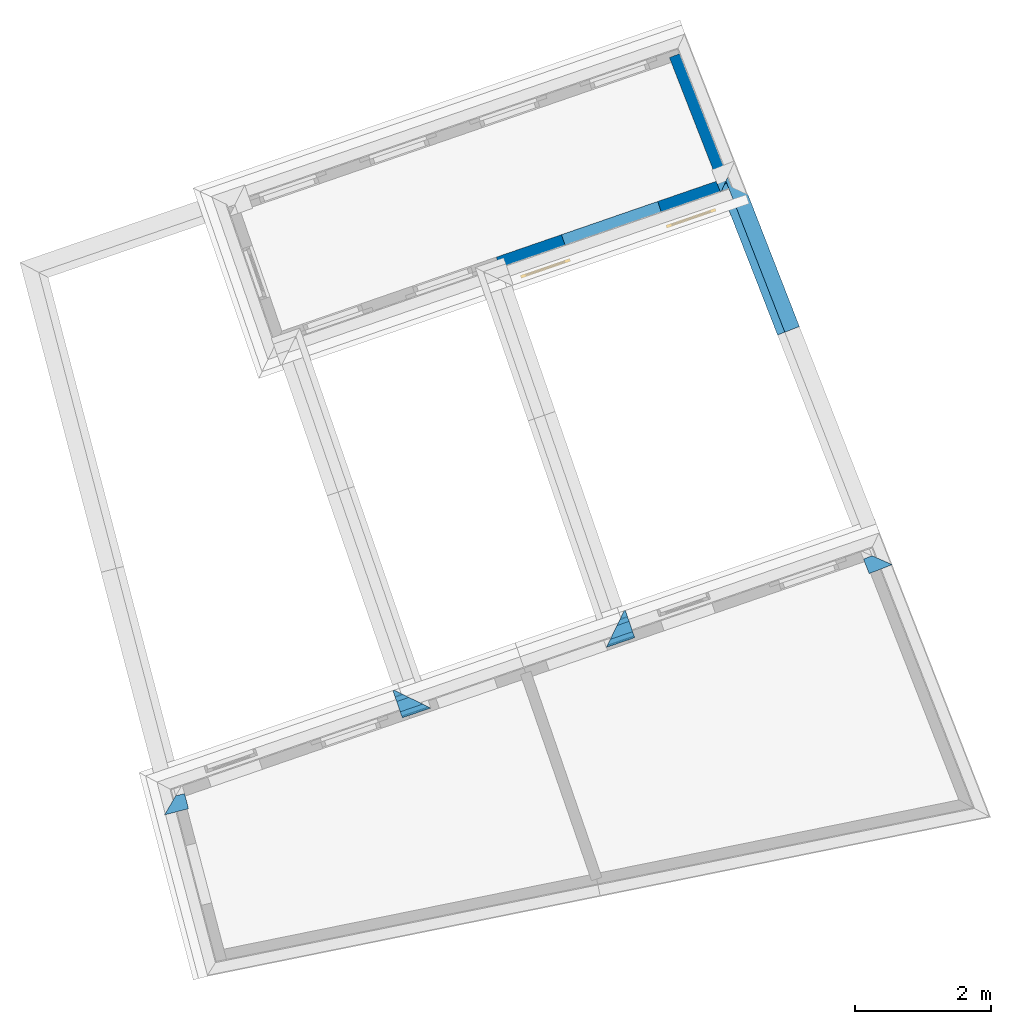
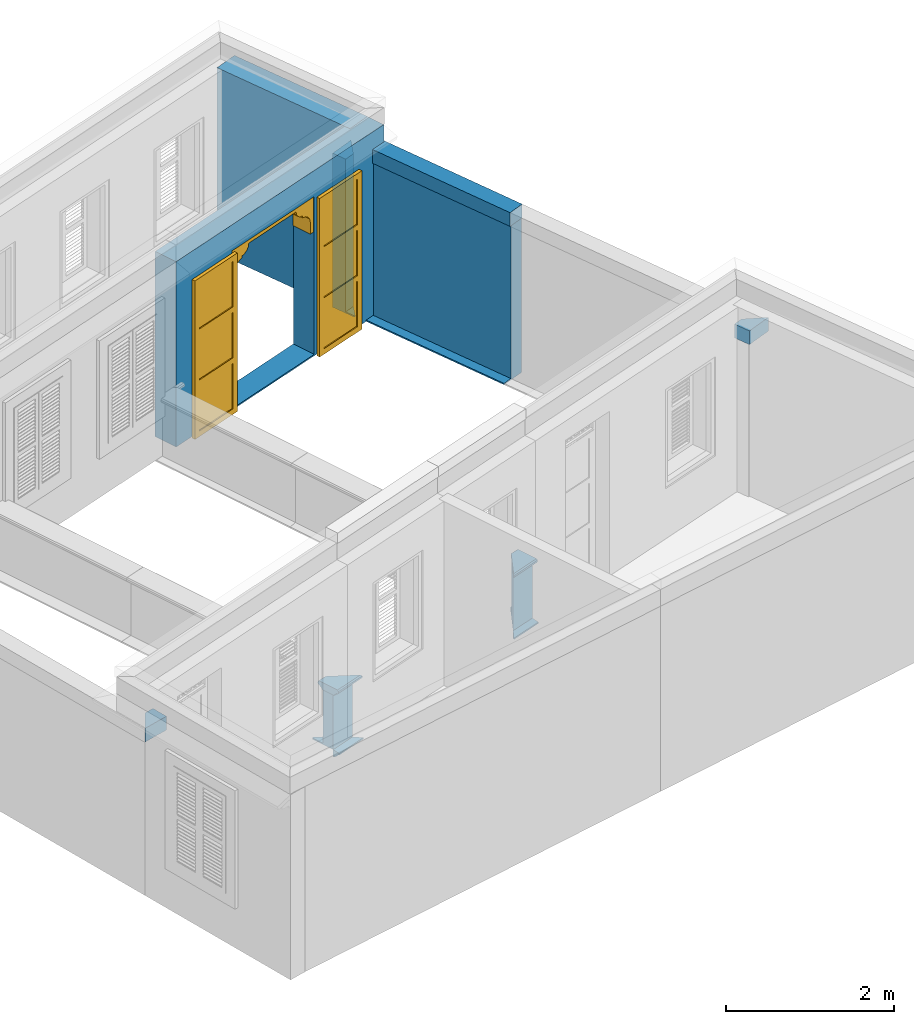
# One storey, part 14 of 16: 13 walls, 1 door, 1 opening.
"""IFC4 building model written with IfcOpenShell, lengths in metres."""

from ifc_helpers import new_model, si_unit, frame, origin, origin_with_axes, place, context, subcontext, project, spatial, polyline, outline, extrude, clip, halfspace, faceted_brep, source, transform, mapped, material, layer, layer_set, layer_usage, material_profile, profile_set, profile_usage, type_object, type_shapes, element, fill, save


model = new_model("IFC4")

# Units and contexts
model_context = context("Model", 3, world=origin_with_axes())
body_context = subcontext(model_context, "Body", "Model", "MODEL_VIEW")
ifc_project = project(units=[si_unit("PLANEANGLEUNIT", "RADIAN"), si_unit("MASSUNIT", "GRAM", prefix="KILO"), si_unit("FORCEUNIT", "NEWTON", prefix="KILO"), si_unit("LENGTHUNIT", "METRE"), si_unit("AREAUNIT", "SQUARE_METRE"), si_unit("VOLUMEUNIT", "CUBIC_METRE")], contexts=[model_context, model_context])

# Site, building, storey
site_placement = place(None, origin_with_axes())
site = spatial("IfcSite", under=ifc_project, at=site_placement, Name="Site plot-8", CompositionType="ELEMENT")
building_placement = place(None, origin_with_axes())
building = spatial("IfcBuilding", under=site, at=building_placement, Name="Building plot-8", CompositionType="ELEMENT")
storey_placement = place(None, frame((0.0, 0.0, 3.0), z_axis=(0.0, 0.0, 1.0), x_axis=(1.0, 0.0, 0.0)))
storey = spatial("IfcBuildingStorey", under=building, at=storey_placement, Name="plot-8 1", CompositionType="ELEMENT", Elevation=3.0)

# Wall, opening, door
ifc_material_1 = material(Name="Masonry")
ifc_layer_1 = layer(ifc_material_1, 0.33, ventilated=False)
ifc_layer_set_1 = layer_set([ifc_layer_1], Name="exterior_0.08_0.25")
ifc_layer_usage_1 = layer_usage(ifc_layer_set_1, "AXIS2", "POSITIVE", -0.25)
wall_type_1 = type_object("IfcWallType", Name="exterior_0.08_0.25", PredefinedType="SOLIDWALL", material=ifc_layer_set_1)
wall_1_placement = place(storey_placement, frame((-8.36280491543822, 21.6813118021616, 0.0), z_axis=(0.0, 0.0, 1.0), x_axis=(0.945331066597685, 0.326112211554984, 0.0)))
wall_1 = element("IfcWall", 1, at=wall_1_placement, inside=storey, type_object=wall_type_1, material=ifc_layer_usage_1, Name="exterior", context=body_context, shape_type="SweptSolid", body=[
    extrude(outline(polyline([(-5.99062738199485e-16, 0.0799999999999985), (1.68064262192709e-15, -0.250000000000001), (3.78163075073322, -0.250000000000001), (3.78163075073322, 0.0799999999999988), (-5.99062738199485e-16, 0.0799999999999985)])), origin_with_axes(), (0.0, 0.0, 1.0), 2.7),
])
opening_placement = place(wall_1_placement, frame((1.01581537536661, 0.0, 0.02)))
opening = element("IfcOpeningElement", 2, at=opening_placement, cuts=wall_1, Name="My Opening", ObjectType="Opening", context=body_context, shape_type="SweptSolid", body=[
    extrude(outline(polyline([(0.0, -0.270000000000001), (1.5, -0.270000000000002), (1.5, 1.1), (-6.66133814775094e-16, 1.1), (0.0, -0.270000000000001)])), origin_with_axes(), (0.0, 0.0, 1.0), 2.3),
])
door_type = type_object("IfcDoorType", Name="arch-1500x2300", OperationType="SINGLE_SWING_LEFT", PredefinedType="NOTDEFINED")
shared_shape = source(origin(), body_context, "Body", "Brep", [
    faceted_brep([(-0.08, -0.02, 0.08), (-0.08, -0.02, 0.0), (-0.69, -0.02, 0.0), (-0.69, -0.02, 0.08), (-0.77, -0.02, 0.0), (-0.77, -0.02, 0.08), (-0.69, -0.035, 0.08), (-0.08, -0.035, 0.08), (0.0, -0.02, 0.08), (0.0, -0.02, 0.0), (-0.08, -0.066, 0.0), (-0.69, -0.066, 0.0), (-0.77, -0.066, 0.0), (-0.77, -0.066, 0.08), (-0.69, -0.02, 0.743333), (-0.77, -0.02, 0.743333), (-0.69, -0.035, 0.743333), (-0.08, -0.035, 0.743333), (-0.08, -0.02, 0.743333), (0.0, -0.02, 0.743333), (0.0, -0.066, 0.08), (0.0, -0.066, 0.0), (-0.69, -0.066, 0.08), (-0.08, -0.066, 0.08), (-0.77, -0.066, 0.743333), (-0.69, -0.02, 0.823333), (-0.77, -0.02, 0.823333), (0.0, -0.066, 0.743333), (0.0, -0.02, 0.823333), (-0.08, -0.02, 0.823333), (-0.08, -0.051, 0.08), (-0.69, -0.051, 0.08), (-0.69, -0.066, 0.743333), (-0.77, -0.066, 0.823333), (-0.69, -0.02, 1.486667), (-0.77, -0.02, 1.486667), (0.0, -0.066, 0.823333), (-0.08, -0.066, 0.743333), (0.0, -0.02, 1.486667), (-0.08, -0.02, 1.486667), (-0.08, -0.051, 0.743333), (-0.69, -0.051, 0.743333), (-0.69, -0.066, 0.823333), (-0.77, -0.066, 1.486667), (-0.69, -0.035, 0.823333), (-0.08, -0.035, 0.823333), (-0.69, -0.035, 1.486667), (-0.69, -0.02, 1.566667), (-0.77, -0.02, 1.566667), (0.0, -0.066, 1.486667), (-0.08, -0.066, 0.823333), (-0.08, -0.035, 1.486667), (0.0, -0.02, 1.566667), (-0.08, -0.02, 1.566667), (-0.69, -0.066, 1.486667), (-0.77, -0.066, 1.566667), (-0.69, -0.02, 2.23), (-0.77, -0.02, 2.23), (0.0, -0.066, 1.566667), (-0.08, -0.066, 1.486667), (0.0, -0.02, 2.23), (-0.08, -0.02, 2.23), (-0.08, -0.051, 0.823333), (-0.69, -0.051, 0.823333), (-0.69, -0.051, 1.486667), (-0.69, -0.066, 1.566667), (-0.77, -0.066, 2.23), (-0.69, -0.035, 1.566667), (-0.08, -0.035, 1.566667), (-0.69, -0.035, 2.23), (-0.69, -0.02, 2.31), (-0.77, -0.02, 2.31), (0.0, -0.066, 2.23), (-0.08, -0.066, 1.566667), (-0.08, -0.051, 1.486667), (-0.08, -0.035, 2.23), (0.0, -0.02, 2.31), (-0.08, -0.02, 2.31), (-0.69, -0.066, 2.23), (-0.77, -0.066, 2.31), (-0.69, -0.066, 2.31), (0.0, -0.066, 2.31), (-0.08, -0.066, 2.23), (-0.08, -0.066, 2.31), (-0.08, -0.051, 1.566667), (-0.69, -0.051, 1.566667), (-0.69, -0.051, 2.23), (-0.08, -0.051, 2.23), (2.19, -0.02, 0.08), (2.19, -0.02, 0.0), (1.58, -0.02, 0.0), (1.58, -0.02, 0.08), (2.27, -0.02, 0.08), (2.27, -0.02, 0.0), (1.58, -0.035, 0.08), (2.19, -0.035, 0.08), (1.5, -0.02, 0.0), (1.5, -0.02, 0.08), (2.19, -0.066, 0.0), (1.58, -0.066, 0.0), (2.27, -0.066, 0.08), (2.27, -0.066, 0.0), (2.27, -0.02, 0.743333), (2.19, -0.02, 0.743333), (2.19, -0.035, 0.743333), (1.58, -0.035, 0.743333), (1.58, -0.02, 0.743333), (1.5, -0.02, 0.743333), (1.5, -0.066, 0.0), (1.5, -0.066, 0.08), (1.58, -0.066, 0.08), (2.19, -0.066, 0.08), (2.27, -0.066, 0.743333), (2.27, -0.02, 0.823333), (2.19, -0.02, 0.823333), (1.5, -0.066, 0.743333), (1.58, -0.02, 0.823333), (1.5, -0.02, 0.823333), (2.19, -0.051, 0.08), (1.58, -0.051, 0.08), (2.19, -0.066, 0.743333), (2.27, -0.066, 0.823333), (2.27, -0.02, 1.486667), (2.19, -0.02, 1.486667), (1.5, -0.066, 0.823333), (1.58, -0.066, 0.743333), (1.58, -0.02, 1.486667), (1.5, -0.02, 1.486667), (1.58, -0.051, 0.743333), (2.19, -0.051, 0.743333), (2.19, -0.066, 0.823333), (2.27, -0.066, 1.486667), (1.58, -0.035, 0.823333), (2.19, -0.035, 0.823333), (2.19, -0.035, 1.486667), (2.27, -0.02, 1.566667), (2.19, -0.02, 1.566667), (1.5, -0.066, 1.486667), (1.58, -0.066, 0.823333), (1.58, -0.035, 1.486667), (1.58, -0.02, 1.566667), (1.5, -0.02, 1.566667), (2.19, -0.066, 1.486667), (2.27, -0.066, 1.566667), (2.27, -0.02, 2.23), (2.19, -0.02, 2.23), (1.5, -0.066, 1.566667), (1.58, -0.066, 1.486667), (1.58, -0.02, 2.23), (1.5, -0.02, 2.23), (2.19, -0.051, 0.823333), (1.58, -0.051, 0.823333), (2.19, -0.051, 1.486667), (2.19, -0.066, 1.566667), (2.27, -0.066, 2.23), (1.58, -0.035, 1.566667), (2.19, -0.035, 1.566667), (2.19, -0.035, 2.23), (2.27, -0.02, 2.31), (2.19, -0.02, 2.31), (1.5, -0.066, 2.23), (1.58, -0.066, 1.566667), (1.58, -0.051, 1.486667), (1.58, -0.035, 2.23), (1.58, -0.02, 2.31), (1.5, -0.02, 2.31), (2.19, -0.066, 2.23), (2.27, -0.066, 2.31), (2.19, -0.066, 2.31), (1.5, -0.066, 2.31), (1.58, -0.066, 2.23), (1.58, -0.066, 2.31), (2.19, -0.051, 1.566667), (1.58, -0.051, 1.566667), (2.19, -0.051, 2.23), (1.58, -0.051, 2.23), (1.5, 0.03, 1.78), (1.5, 0.03, 1.95), (1.44, 0.03, 1.95), (1.44, 0.03, 1.78), (1.44, 0.3, 1.95), (1.44, 0.3, 1.78), (1.5, 0.03, 2.12), (1.429, 0.03, 2.004), (1.5, 0.3, 1.78), (1.5, 0.3, 1.95), (1.429, 0.3, 2.004), (1.399, 0.03, 2.049), (1.5, 0.3, 2.12), (1.399, 0.3, 2.049), (1.354, 0.03, 2.079), (1.5, 0.3, 2.29), (1.5, 0.03, 2.29), (1.354, 0.3, 2.079), (1.3, 0.03, 2.09), (1.3, 0.03, 2.12), (1.254, 0.03, 2.129), (1.18, 0.3, 2.29), (1.18, 0.03, 2.29), (1.3, 0.3, 2.12), (1.254, 0.3, 2.129), (1.3, 0.3, 2.09), (1.215, 0.03, 2.155), (1.189, 0.3, 2.194), (1.18, 0.3, 2.24), (1.18, 0.03, 2.24), (1.189, 0.03, 2.194), (1.215, 0.3, 2.155), (0.06, 0.03, 1.78), (0.06, 0.03, 1.95), (0.0, 0.03, 1.95), (0.0, 0.03, 1.78), (0.06, 0.3, 1.78), (0.06, 0.3, 1.95), (0.071, 0.03, 2.004), (0.0, 0.03, 2.12), (0.0, 0.3, 1.95), (0.0, 0.3, 1.78), (0.071, 0.3, 2.004), (0.101, 0.03, 2.049), (0.0, 0.3, 2.12), (0.101, 0.3, 2.049), (0.146, 0.03, 2.079), (0.0, 0.03, 2.29), (0.0, 0.3, 2.29), (0.146, 0.3, 2.079), (0.2, 0.03, 2.12), (0.2, 0.03, 2.09), (0.246, 0.03, 2.129), (0.32, 0.03, 2.29), (0.32, 0.3, 2.29), (0.246, 0.3, 2.129), (0.2, 0.3, 2.12), (0.2, 0.3, 2.09), (0.285, 0.03, 2.155), (0.32, 0.3, 2.24), (0.311, 0.3, 2.194), (0.311, 0.03, 2.194), (0.32, 0.03, 2.24), (0.285, 0.3, 2.155)], [[[0, 1, 2, 3]], [[4, 5, 3, 2]], [[0, 3, 6, 7]], [[1, 0, 8, 9]], [[2, 1, 10, 11]], [[5, 4, 12, 13]], [[14, 3, 5, 15]], [[4, 2, 11, 12]], [[3, 14, 16, 6]], [[6, 16, 17, 7]], [[18, 0, 7, 17]], [[0, 18, 19, 8]], [[9, 8, 20, 21]], [[1, 9, 21, 10]], [[22, 11, 10, 23]], [[13, 12, 11, 22]], [[15, 5, 13, 24]], [[25, 14, 15, 26]], [[14, 18, 17, 16]], [[8, 19, 27, 20]], [[28, 19, 18, 29]], [[23, 10, 21, 20]], [[22, 23, 30, 31]], [[22, 32, 24, 13]], [[26, 15, 24, 33]], [[29, 18, 14, 25]], [[34, 25, 26, 35]], [[19, 28, 36, 27]], [[20, 27, 37, 23]], [[38, 28, 29, 39]], [[23, 37, 40, 30]], [[41, 31, 30, 40]], [[32, 22, 31, 41]], [[32, 42, 33, 24]], [[35, 26, 33, 43]], [[29, 25, 44, 45]], [[25, 34, 46, 44]], [[47, 34, 35, 48]], [[28, 38, 49, 36]], [[27, 36, 50, 37]], [[39, 29, 45, 51]], [[52, 38, 39, 53]], [[37, 32, 41, 40]], [[37, 50, 42, 32]], [[42, 54, 43, 33]], [[48, 35, 43, 55]], [[44, 46, 51, 45]], [[34, 39, 51, 46]], [[34, 47, 53, 39]], [[56, 47, 48, 57]], [[38, 52, 58, 49]], [[36, 49, 59, 50]], [[60, 52, 53, 61]], [[42, 50, 62, 63]], [[54, 42, 63, 64]], [[54, 65, 55, 43]], [[57, 48, 55, 66]], [[53, 47, 67, 68]], [[47, 56, 69, 67]], [[70, 56, 57, 71]], [[52, 60, 72, 58]], [[49, 58, 73, 59]], [[50, 59, 74, 62]], [[61, 53, 68, 75]], [[76, 60, 61, 77]], [[64, 63, 62, 74]], [[59, 54, 64, 74]], [[65, 54, 59, 73]], [[65, 78, 66, 55]], [[71, 57, 66, 79]], [[67, 69, 75, 68]], [[56, 61, 75, 69]], [[77, 61, 56, 70]], [[70, 71, 79, 80]], [[60, 76, 81, 72]], [[58, 72, 82, 73]], [[76, 77, 83, 81]], [[65, 73, 84, 85]], [[78, 65, 85, 86]], [[78, 80, 79, 66]], [[77, 70, 80, 83]], [[72, 81, 83, 82]], [[73, 82, 87, 84]], [[86, 85, 84, 87]], [[82, 78, 86, 87]], [[82, 83, 80, 78]], [[88, 89, 90, 91]], [[89, 88, 92, 93]], [[94, 95, 88, 91]], [[96, 97, 91, 90]], [[98, 99, 90, 89]], [[100, 101, 93, 92]], [[102, 92, 88, 103]], [[101, 98, 89, 93]], [[95, 104, 103, 88]], [[94, 105, 104, 95]], [[105, 94, 91, 106]], [[97, 107, 106, 91]], [[108, 109, 97, 96]], [[99, 108, 96, 90]], [[110, 99, 98, 111]], [[111, 98, 101, 100]], [[112, 100, 92, 102]], [[113, 102, 103, 114]], [[104, 105, 106, 103]], [[109, 115, 107, 97]], [[116, 106, 107, 117]], [[109, 108, 99, 110]], [[118, 119, 110, 111]], [[100, 112, 120, 111]], [[121, 112, 102, 113]], [[114, 103, 106, 116]], [[122, 113, 114, 123]], [[115, 124, 117, 107]], [[110, 125, 115, 109]], [[126, 116, 117, 127]], [[119, 128, 125, 110]], [[128, 119, 118, 129]], [[129, 118, 111, 120]], [[112, 121, 130, 120]], [[131, 121, 113, 122]], [[132, 133, 114, 116]], [[133, 134, 123, 114]], [[135, 122, 123, 136]], [[124, 137, 127, 117]], [[125, 138, 124, 115]], [[139, 132, 116, 126]], [[140, 126, 127, 141]], [[128, 129, 120, 125]], [[120, 130, 138, 125]], [[121, 131, 142, 130]], [[143, 131, 122, 135]], [[132, 139, 134, 133]], [[134, 139, 126, 123]], [[126, 140, 136, 123]], [[144, 135, 136, 145]], [[137, 146, 141, 127]], [[138, 147, 137, 124]], [[148, 140, 141, 149]], [[150, 151, 138, 130]], [[152, 150, 130, 142]], [[131, 143, 153, 142]], [[154, 143, 135, 144]], [[155, 156, 136, 140]], [[156, 157, 145, 136]], [[158, 144, 145, 159]], [[146, 160, 149, 141]], [[147, 161, 146, 137]], [[151, 162, 147, 138]], [[163, 155, 140, 148]], [[164, 148, 149, 165]], [[162, 151, 150, 152]], [[162, 152, 142, 147]], [[161, 147, 142, 153]], [[143, 154, 166, 153]], [[167, 154, 144, 158]], [[155, 163, 157, 156]], [[157, 163, 148, 145]], [[159, 145, 148, 164]], [[168, 167, 158, 159]], [[160, 169, 165, 149]], [[161, 170, 160, 146]], [[169, 171, 164, 165]], [[172, 173, 161, 153]], [[174, 172, 153, 166]], [[154, 167, 168, 166]], [[171, 168, 159, 164]], [[170, 171, 169, 160]], [[173, 175, 170, 161]], [[175, 173, 172, 174]], [[175, 174, 166, 170]], [[166, 168, 171, 170]], [[176, 177, 178, 179]], [[180, 181, 179, 178]], [[177, 182, 183, 178]], [[177, 176, 184, 185]], [[181, 184, 176, 179]], [[181, 180, 185, 184]], [[186, 180, 178, 183]], [[182, 187, 183]], [[182, 177, 185, 188]], [[180, 186, 188, 185]], [[189, 186, 183, 187]], [[182, 190, 187]], [[188, 191, 192, 182]], [[188, 186, 189]], [[193, 189, 187, 190]], [[194, 190, 182, 195]], [[182, 192, 196, 195]], [[192, 191, 197, 198]], [[199, 200, 191, 188]], [[188, 189, 193]], [[201, 193, 190, 194]], [[199, 201, 194, 195]], [[200, 199, 195, 196]], [[192, 202, 196]], [[191, 203, 204, 197]], [[192, 198, 205, 206]], [[207, 191, 200]], [[199, 188, 193, 201]], [[207, 200, 196, 202]], [[192, 206, 202]], [[204, 203, 206, 205]], [[203, 191, 207]], [[203, 207, 202, 206]], [[208, 209, 210, 211]], [[209, 208, 212, 213]], [[209, 214, 215, 210]], [[211, 210, 216, 217]], [[208, 211, 217, 212]], [[217, 216, 213, 212]], [[214, 209, 213, 218]], [[214, 219, 215]], [[220, 216, 210, 215]], [[216, 220, 218, 213]], [[219, 214, 218, 221]], [[219, 222, 215]], [[215, 223, 224, 220]], [[221, 218, 220]], [[222, 219, 221, 225]], [[226, 215, 222, 227]], [[226, 228, 223, 215]], [[229, 230, 224, 223]], [[220, 224, 231, 232]], [[225, 221, 220]], [[227, 222, 225, 233]], [[226, 227, 233, 232]], [[228, 226, 232, 231]], [[228, 234, 223]], [[230, 235, 236, 224]], [[237, 238, 229, 223]], [[231, 224, 239]], [[233, 225, 220, 232]], [[234, 228, 231, 239]], [[234, 237, 223]], [[238, 237, 236, 235]], [[239, 224, 236]], [[237, 234, 239, 236]], [[238, 235, 204, 205]], [[235, 230, 197, 204]], [[229, 238, 205, 198]], [[230, 229, 198, 197]]]),
])
type_shapes(door_type, [shared_shape])
door_placement = place(storey_placement, frame((-7.31447278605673, 21.7573422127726, 0.02), z_axis=(0.0, 0.0, 1.0), x_axis=(1.41799659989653, 0.489168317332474, 0.0)))
door = element("IfcDoor", 3, at=door_placement, inside=storey, type_object=door_type, Name="circulation sahn door", OverallHeight=2.3, OverallWidth=1.5, context=body_context, shape_type="MappedRepresentation", body=[
    mapped(shared_shape, transform((0.0, 0.0, 0.0), scale=1.0)),
])
fill(opening, door)

# Walls
ifc_material_2 = material(Name="Masonry")
ifc_layer_2 = layer(ifc_material_2, 0.33, ventilated=False)
ifc_layer_set_2 = layer_set([ifc_layer_2], Name="party_0.08_0.25")
ifc_layer_usage_2 = layer_usage(ifc_layer_set_2, "AXIS2", "POSITIVE", -0.25)
wall_type_2 = type_object("IfcWallType", Name="party_0.08_0.25", PredefinedType="SOLIDWALL", material=ifc_layer_set_2)
wall_2_placement = place(storey_placement, frame((-5.0242446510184, 22.8330197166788, 0.0), z_axis=(0.0, 0.0, 1.0), x_axis=(-0.363339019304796, 0.931656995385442, 0.0)))
element("IfcWall", 4, at=wall_2_placement, inside=storey, type_object=wall_type_2, material=ifc_layer_usage_2, Name="party", context=body_context, shape_type="SweptSolid", body=[
    extrude(outline(polyline([(6.97677754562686e-16, 0.0799999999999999), (-1.59451530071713e-15, -0.249999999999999), (2.03266617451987, -0.249999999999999), (2.03266617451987, 0.0799999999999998), (6.97677754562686e-16, 0.0799999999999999)])), origin_with_axes(), (0.0, 0.0, 1.0), 2.7),
])
ifc_material_profile_1 = material_profile(None, outline(polyline([(0.265, 2.245), (0.265, 2.445), (0.035, 2.445), (0.035, 2.245), (0.265, 2.245)])))
ifc_profile_set_1 = profile_set([ifc_material_profile_1])
ifc_profile_usage_1 = profile_usage(ifc_profile_set_1)
wall_type_3 = type_object("IfcWallType", Name="parapet street_1", PredefinedType="PARAPET", material=ifc_profile_set_1)
wall_3_placement = place(storey_placement, frame((-12.0269940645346, 14.1351984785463, 0.0), z_axis=(-0.967458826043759, -0.253028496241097, 0.0), x_axis=(0.253028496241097, -0.967458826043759, 0.0)))
element("IfcWall", 5, at=wall_3_placement, inside=storey, type_object=wall_type_3, material=ifc_profile_usage_1, Name="parapet street_1", context=body_context, shape_type="Clipping", body=[
    clip(clip(extrude(outline(polyline([(0.265, 2.245), (0.265, 2.445), (0.035, 2.445), (0.035, 2.245), (0.265, 2.245)])), origin_with_axes(), (0.0, 0.0, 1.0), 2.1), halfspace(frame((0.0, 0.0, 1.1), z_axis=(0.707106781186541, 0.0, -0.707106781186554), x_axis=(0.0, 1.0, 0.0)), True)), halfspace(frame((0.0, 0.0, 1.0), z_axis=(3.82856869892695e-16, 0.0, -1.0), x_axis=(0.0, 1.0, 0.0)), False)),
])
ifc_material_profile_2 = material_profile(None, outline(polyline([(0.25, 0.0), (0.25, 2.245), (0.05, 2.245), (0.05, 0.02), (-0.08, 0.02), (-0.08, 0.0), (0.25, 0.0)])))
ifc_profile_set_2 = profile_set([ifc_material_profile_2])
ifc_profile_usage_2 = profile_usage(ifc_profile_set_2)
wall_type_4 = type_object("IfcWallType", Name="parapet party_0", PredefinedType="PARAPET", material=ifc_profile_set_2)
wall_4_placement = place(storey_placement, frame((-5.38758367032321, 23.7646767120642, 0.0), z_axis=(0.363339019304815, -0.931656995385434, 0.0), x_axis=(0.931656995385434, 0.363339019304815, 0.0)))
element("IfcWall", 6, at=wall_4_placement, inside=storey, type_object=wall_type_4, material=ifc_profile_usage_2, Name="parapet party_0", context=body_context, shape_type="Clipping", body=[
    clip(clip(extrude(outline(polyline([(0.25, 0.0), (0.25, 2.245), (0.05, 2.245), (0.05, 0.02), (-0.08, 0.02), (-0.08, 0.0), (0.25, 0.0)])), origin_with_axes(), (0.0, 0.0, 1.0), 4.35672966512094), halfspace(frame((0.0, 0.0, 3.35672966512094), z_axis=(9.70873027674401e-15, 0.0, -1.0), x_axis=(0.0, 1.0, 0.0)), True)), halfspace(frame((0.0, 0.0, 1.0), z_axis=(-0.707106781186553, 0.0, -0.707106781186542), x_axis=(0.0, 1.0, 0.0)), False)),
])
ifc_profile_usage_3 = profile_usage(ifc_profile_set_2)
wall_5_placement = place(storey_placement, frame((-6.04906734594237, 22.4333467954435, 0.0), z_axis=(0.931656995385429, 0.363339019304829, 0.0), x_axis=(-0.363339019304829, 0.931656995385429, 0.0)))
element("IfcWall", 7, at=wall_5_placement, inside=storey, type_object=wall_type_4, material=ifc_profile_usage_3, Name="parapet party_0", context=body_context, shape_type="Clipping", body=[
    clip(clip(extrude(outline(polyline([(0.25, 0.0), (0.25, 2.245), (0.05, 2.245), (0.05, 0.02), (-0.08, 0.02), (-0.08, 0.0), (0.25, 0.0)])), origin_with_axes(), (0.0, 0.0, 1.0), 2.1), halfspace(frame((0.0, 0.0, 1.1), z_axis=(0.707106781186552, 0.0, -0.707106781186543), x_axis=(0.0, 1.0, 0.0)), True)), halfspace(frame((0.0, 0.0, 1.0), z_axis=(-6.12323399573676e-17, 0.0, -1.0), x_axis=(0.0, 1.0, 0.0)), False)),
])
ifc_material_profile_3 = material_profile(None, outline(polyline([(0.265, 2.245), (0.265, 2.445), (0.035, 2.445), (0.035, 2.245), (0.265, 2.245)])))
ifc_profile_set_3 = profile_set([ifc_material_profile_3])
ifc_profile_usage_4 = profile_usage(ifc_profile_set_3)
wall_type_5 = type_object("IfcWallType", Name="parapet party_1", PredefinedType="PARAPET", material=ifc_profile_set_3)
wall_6_placement = place(storey_placement, frame((-1.96367117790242, 17.7374902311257, 0.0), z_axis=(-0.931656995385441, -0.363339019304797, 0.0), x_axis=(0.363339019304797, -0.931656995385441, 0.0)))
element("IfcWall", 8, at=wall_6_placement, inside=storey, type_object=wall_type_5, material=ifc_profile_usage_4, Name="parapet party_1", context=body_context, shape_type="Clipping", body=[
    clip(clip(extrude(outline(polyline([(0.265, 2.245), (0.265, 2.445), (0.035, 2.445), (0.035, 2.245), (0.265, 2.245)])), origin_with_axes(), (0.0, 0.0, 1.0), 2.1), halfspace(frame((0.0, 0.0, 1.1), z_axis=(-6.12323399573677e-17, 0.0, -1.0), x_axis=(0.0, 1.0, 0.0)), True)), halfspace(frame((0.0, 0.0, 1.0), z_axis=(-0.70710678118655, 0.0, -0.707106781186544), x_axis=(0.0, 1.0, 0.0)), False)),
])
ifc_profile_usage_5 = profile_usage(ifc_profile_set_3)
wall_7_placement = place(storey_placement, frame((-5.38758367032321, 23.7646767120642, 0.0), z_axis=(0.363339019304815, -0.931656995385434, 0.0), x_axis=(0.931656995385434, 0.363339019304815, 0.0)))
element("IfcWall", 9, at=wall_7_placement, inside=storey, type_object=wall_type_5, material=ifc_profile_usage_5, Name="parapet party_1", context=body_context, shape_type="Clipping", body=[
    clip(clip(extrude(outline(polyline([(0.265, 2.245), (0.265, 2.445), (0.035, 2.445), (0.035, 2.245), (0.265, 2.245)])), origin_with_axes(), (0.0, 0.0, 1.0), 4.35672966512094), halfspace(frame((0.0, 0.0, 3.35672966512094), z_axis=(9.70873027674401e-15, 0.0, -1.0), x_axis=(0.0, 1.0, 0.0)), True)), halfspace(frame((0.0, 0.0, 1.0), z_axis=(-0.707106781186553, 0.0, -0.707106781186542), x_axis=(0.0, 1.0, 0.0)), False)),
])
ifc_material_profile_4 = material_profile(None, outline(polyline([(0.25, 0.0), (0.25, 0.795), (0.09, 0.795), (0.09, 0.02), (-0.08, 0.02), (-0.08, 0.0), (0.25, 0.0)])))
ifc_profile_set_4 = profile_set([ifc_material_profile_4])
ifc_profile_usage_6 = profile_usage(ifc_profile_set_4)
wall_type_6 = type_object("IfcWallType", Name="parapet internal_0", PredefinedType="PARAPET", material=ifc_profile_set_4)
wall_8_placement = place(storey_placement, frame((-8.84712900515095, 15.6488774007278, 0.0), z_axis=(-0.945331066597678, -0.326112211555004, 0.0), x_axis=(0.326112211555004, -0.945331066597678, 0.0)))
element("IfcWall", 10, at=wall_8_placement, inside=storey, type_object=wall_type_6, material=ifc_profile_usage_6, Name="parapet internal_0", context=body_context, shape_type="Clipping", body=[
    clip(clip(extrude(outline(polyline([(0.25, 0.0), (0.25, 0.795), (0.09, 0.795), (0.09, 0.02), (-0.08, 0.02), (-0.08, 0.0), (0.25, 0.0)])), origin_with_axes(), (0.0, 0.0, 1.0), 2.1), halfspace(frame((0.0, 0.0, 1.1), z_axis=(-5.0532154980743e-16, 0.0, -1.0), x_axis=(0.0, 1.0, 0.0)), True)), halfspace(frame((0.0, 0.0, 1.0), z_axis=(-0.707106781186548, 0.0, -0.707106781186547), x_axis=(0.0, 1.0, 0.0)), False)),
])
ifc_material_profile_5 = material_profile(None, outline(polyline([(0.265, 0.795), (0.268, 0.807), (0.274, 0.816), (0.283, 0.822), (0.295, 0.825), (0.295, 0.84), (0.305, 0.84), (0.317, 0.842), (0.326, 0.849), (0.333, 0.858), (0.335, 0.87), (0.333, 0.882), (0.326, 0.891), (0.317, 0.898), (0.305, 0.9), (0.035, 0.9), (0.023, 0.898), (0.014, 0.891), (0.007, 0.882), (0.005, 0.87), (0.007, 0.858), (0.014, 0.849), (0.023, 0.842), (0.035, 0.84), (0.045, 0.84), (0.045, 0.825), (0.057, 0.822), (0.066, 0.816), (0.072, 0.807), (0.075, 0.795), (0.265, 0.795)])))
ifc_profile_set_5 = profile_set([ifc_material_profile_5])
ifc_profile_usage_7 = profile_usage(ifc_profile_set_5)
wall_type_7 = type_object("IfcWallType", Name="parapet internal_1", PredefinedType="PARAPET", material=ifc_profile_set_5)
wall_9_placement = place(storey_placement, frame((-8.84712900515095, 15.6488774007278, 0.0), z_axis=(-0.945331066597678, -0.326112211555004, 0.0), x_axis=(0.326112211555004, -0.945331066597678, 0.0)))
element("IfcWall", 11, at=wall_9_placement, inside=storey, type_object=wall_type_7, material=ifc_profile_usage_7, Name="parapet internal_1", context=body_context, shape_type="Clipping", body=[
    clip(clip(extrude(outline(polyline([(0.265, 0.795), (0.268, 0.807), (0.274, 0.816), (0.283, 0.822), (0.295, 0.825), (0.295, 0.84), (0.305, 0.84), (0.317, 0.842), (0.326, 0.849), (0.333, 0.858), (0.335, 0.87), (0.333, 0.882), (0.326, 0.891), (0.317, 0.898), (0.305, 0.9), (0.035, 0.9), (0.023, 0.898), (0.014, 0.891), (0.007, 0.882), (0.005, 0.87), (0.007, 0.858), (0.014, 0.849), (0.023, 0.842), (0.035, 0.84), (0.045, 0.84), (0.045, 0.825), (0.057, 0.822), (0.066, 0.816), (0.072, 0.807), (0.075, 0.795), (0.265, 0.795)])), origin_with_axes(), (0.0, 0.0, 1.0), 2.1), halfspace(frame((0.0, 0.0, 1.1), z_axis=(-5.0532154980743e-16, 0.0, -1.0), x_axis=(0.0, 1.0, 0.0)), True)), halfspace(frame((0.0, 0.0, 1.0), z_axis=(-0.707106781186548, 0.0, -0.707106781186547), x_axis=(0.0, 1.0, 0.0)), False)),
])
ifc_material_profile_6 = material_profile(None, outline(polyline([(0.25, -0.1), (0.265, -0.1), (0.265, -0.085), (0.278, -0.084), (0.289, -0.081), (0.301, -0.074), (0.309, -0.065), (0.315, -0.055), (0.324, -0.044), (0.334, -0.038), (0.345, -0.035), (0.345, -0.015), (0.25, 0.0), (0.25, -0.1)])))
ifc_profile_set_6 = profile_set([ifc_material_profile_6])
ifc_profile_usage_8 = profile_usage(ifc_profile_set_6)
wall_type_8 = type_object("IfcWallType", Name="parapet internal_2", PredefinedType="PARAPET", material=ifc_profile_set_6)
wall_10_placement = place(storey_placement, frame((-8.84712900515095, 15.6488774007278, 0.0), z_axis=(-0.945331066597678, -0.326112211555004, 0.0), x_axis=(0.326112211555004, -0.945331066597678, 0.0)))
element("IfcWall", 12, at=wall_10_placement, inside=storey, type_object=wall_type_8, material=ifc_profile_usage_8, Name="parapet internal_2", context=body_context, shape_type="Clipping", body=[
    clip(clip(extrude(outline(polyline([(0.25, -0.1), (0.265, -0.1), (0.265, -0.085), (0.278, -0.084), (0.289, -0.081), (0.301, -0.074), (0.309, -0.065), (0.315, -0.055), (0.324, -0.044), (0.334, -0.038), (0.345, -0.035), (0.345, -0.015), (0.25, 0.0), (0.25, -0.1)])), origin_with_axes(), (0.0, 0.0, 1.0), 2.1), halfspace(frame((0.0, 0.0, 1.1), z_axis=(-5.0532154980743e-16, 0.0, -1.0), x_axis=(0.0, 1.0, 0.0)), True)), halfspace(frame((0.0, 0.0, 1.0), z_axis=(-0.707106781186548, 0.0, -0.707106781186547), x_axis=(0.0, 1.0, 0.0)), False)),
])
ifc_material_profile_7 = material_profile(None, outline(polyline([(0.25, 0.0), (0.25, 0.795), (0.09, 0.795), (0.09, 0.02), (-0.08, 0.02), (-0.08, 0.0), (0.25, 0.0)])))
ifc_profile_set_7 = profile_set([ifc_material_profile_7])
ifc_profile_usage_9 = profile_usage(ifc_profile_set_7)
wall_type_9 = type_object("IfcWallType", Name="parapet internal_0", PredefinedType="PARAPET", material=ifc_profile_set_7)
wall_11_placement = place(storey_placement, frame((-5.51474517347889, 16.7984546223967, 0.0), z_axis=(-0.945331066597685, -0.326112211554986, 0.0), x_axis=(0.326112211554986, -0.945331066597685, 0.0)))
element("IfcWall", 13, at=wall_11_placement, inside=storey, type_object=wall_type_9, material=ifc_profile_usage_9, Name="parapet internal_0", context=body_context, shape_type="Clipping", body=[
    clip(clip(extrude(outline(polyline([(0.25, 0.0), (0.25, 0.795), (0.09, 0.795), (0.09, 0.02), (-0.08, 0.02), (-0.08, 0.0), (0.25, 0.0)])), origin_with_axes(), (0.0, 0.0, 1.0), 2.1), halfspace(frame((0.0, 0.0, 1.1), z_axis=(0.707106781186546, 0.0, -0.707106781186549), x_axis=(0.0, 1.0, 0.0)), True)), halfspace(frame((0.0, 0.0, 1.0), z_axis=(-2.83276944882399e-16, 0.0, -1.0), x_axis=(0.0, 1.0, 0.0)), False)),
])
ifc_material_profile_8 = material_profile(None, outline(polyline([(0.265, 0.795), (0.268, 0.807), (0.274, 0.816), (0.283, 0.822), (0.295, 0.825), (0.295, 0.84), (0.305, 0.84), (0.317, 0.842), (0.326, 0.849), (0.333, 0.858), (0.335, 0.87), (0.333, 0.882), (0.326, 0.891), (0.317, 0.898), (0.305, 0.9), (0.035, 0.9), (0.023, 0.898), (0.014, 0.891), (0.007, 0.882), (0.005, 0.87), (0.007, 0.858), (0.014, 0.849), (0.023, 0.842), (0.035, 0.84), (0.045, 0.84), (0.045, 0.825), (0.057, 0.822), (0.066, 0.816), (0.072, 0.807), (0.075, 0.795), (0.265, 0.795)])))
ifc_profile_set_8 = profile_set([ifc_material_profile_8])
ifc_profile_usage_10 = profile_usage(ifc_profile_set_8)
wall_type_10 = type_object("IfcWallType", Name="parapet internal_1", PredefinedType="PARAPET", material=ifc_profile_set_8)
wall_12_placement = place(storey_placement, frame((-5.51474517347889, 16.7984546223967, 0.0), z_axis=(-0.945331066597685, -0.326112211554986, 0.0), x_axis=(0.326112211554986, -0.945331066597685, 0.0)))
element("IfcWall", 14, at=wall_12_placement, inside=storey, type_object=wall_type_10, material=ifc_profile_usage_10, Name="parapet internal_1", context=body_context, shape_type="Clipping", body=[
    clip(clip(extrude(outline(polyline([(0.265, 0.795), (0.268, 0.807), (0.274, 0.816), (0.283, 0.822), (0.295, 0.825), (0.295, 0.84), (0.305, 0.84), (0.317, 0.842), (0.326, 0.849), (0.333, 0.858), (0.335, 0.87), (0.333, 0.882), (0.326, 0.891), (0.317, 0.898), (0.305, 0.9), (0.035, 0.9), (0.023, 0.898), (0.014, 0.891), (0.007, 0.882), (0.005, 0.87), (0.007, 0.858), (0.014, 0.849), (0.023, 0.842), (0.035, 0.84), (0.045, 0.84), (0.045, 0.825), (0.057, 0.822), (0.066, 0.816), (0.072, 0.807), (0.075, 0.795), (0.265, 0.795)])), origin_with_axes(), (0.0, 0.0, 1.0), 2.1), halfspace(frame((0.0, 0.0, 1.1), z_axis=(0.707106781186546, 0.0, -0.707106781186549), x_axis=(0.0, 1.0, 0.0)), True)), halfspace(frame((0.0, 0.0, 1.0), z_axis=(-2.83276944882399e-16, 0.0, -1.0), x_axis=(0.0, 1.0, 0.0)), False)),
])
ifc_material_profile_9 = material_profile(None, outline(polyline([(0.25, -0.1), (0.265, -0.1), (0.265, -0.085), (0.278, -0.084), (0.289, -0.081), (0.301, -0.074), (0.309, -0.065), (0.315, -0.055), (0.324, -0.044), (0.334, -0.038), (0.345, -0.035), (0.345, -0.015), (0.25, 0.0), (0.25, -0.1)])))
ifc_profile_set_9 = profile_set([ifc_material_profile_9])
ifc_profile_usage_11 = profile_usage(ifc_profile_set_9)
wall_type_11 = type_object("IfcWallType", Name="parapet internal_2", PredefinedType="PARAPET", material=ifc_profile_set_9)
wall_13_placement = place(storey_placement, frame((-5.51474517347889, 16.7984546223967, 0.0), z_axis=(-0.945331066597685, -0.326112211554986, 0.0), x_axis=(0.326112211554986, -0.945331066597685, 0.0)))
element("IfcWall", 15, at=wall_13_placement, inside=storey, type_object=wall_type_11, material=ifc_profile_usage_11, Name="parapet internal_2", context=body_context, shape_type="Clipping", body=[
    clip(clip(extrude(outline(polyline([(0.25, -0.1), (0.265, -0.1), (0.265, -0.085), (0.278, -0.084), (0.289, -0.081), (0.301, -0.074), (0.309, -0.065), (0.315, -0.055), (0.324, -0.044), (0.334, -0.038), (0.345, -0.035), (0.345, -0.015), (0.25, 0.0), (0.25, -0.1)])), origin_with_axes(), (0.0, 0.0, 1.0), 2.1), halfspace(frame((0.0, 0.0, 1.1), z_axis=(0.707106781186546, 0.0, -0.707106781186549), x_axis=(0.0, 1.0, 0.0)), True)), halfspace(frame((0.0, 0.0, 1.0), z_axis=(-2.83276944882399e-16, 0.0, -1.0), x_axis=(0.0, 1.0, 0.0)), False)),
])

save(model, "model.ifc")
